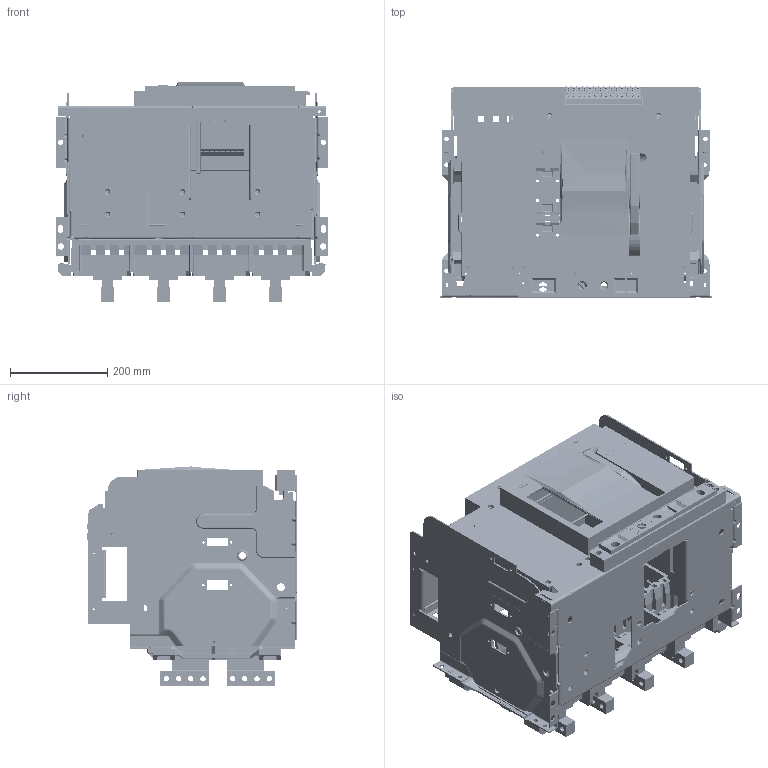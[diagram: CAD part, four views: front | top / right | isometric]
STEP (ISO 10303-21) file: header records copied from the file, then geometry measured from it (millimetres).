
FILE_DESCRIPTION((''),'2;1');
FILE_NAME('NA8G-3200-DO-3200-4P-V_ASM','2020-05-13T08:39:20',('lcc'),(''),'CREO PARAMETRIC BY PTC INC, 2018020','CREO PARAMETRIC BY PTC INC, 2018020','');
FILE_SCHEMA(('CONFIG_CONTROL_DESIGN','SHAPE_APPEARANCE_LAYERS_GROUPS'));
Products named in the file (31): 8-055-093; 8-050-238; 8-050-239; 8-300-151-; SHIZ45FFX1IW; DW45-3200-DIJIA-4P_ASM; 8ZTD-300-043; 8ZTD-227-004; 8ZTD-860-049-2; 8ZTD-235-048; 8-060-145-4; 8-253-034; 8-253-289; 8-253-290; 8-253-309; 8-060-140; 8ZTD-064-136; 8ZTD-024-689; 8ZTD-557-554; 8ZTD-557-552; 8ZTD-557-553; 8ZTD-557-555; GBT6170-M3; GBT818-M3X8; 5ZTD-558-366_ASM; 8ZTD-860-511; 5ZTD-558-365_ASM; 8ZTD-300-253; 8ZTD-580-221-1; 8ZTD-580-285; NA8G-3200-DO-3200-4P-V_ASM
Assembly tree (63 placements, depth 4):
  NA8G-3200-DO-3200-4P-V_ASM
    8-055-093
    8-050-238
    8-050-239
    8-300-151-
    DW45-3200-DIJIA-4P_ASM
      SHIZ45FFX1IW
    8ZTD-300-043
    8ZTD-227-004
    8ZTD-860-049-2
    8ZTD-235-048
    8-060-145-4
    8-253-034
    8-253-289
    8-253-290
    8-253-309
    8-060-140
    5ZTD-558-365_ASM
      8ZTD-064-136
      5ZTD-558-366_ASM  x14
        8ZTD-024-689
        8ZTD-557-554
        8ZTD-557-552
        8ZTD-557-553
        8ZTD-557-555
        GBT6170-M3
        GBT818-M3X8
      8ZTD-860-511
    8ZTD-300-253
    8ZTD-580-221-1  x8
    8ZTD-580-285  x8
Bounding box: 558 x 432.97 x 450 mm (x, y, z)
Volume: 8564211.9 mm3; surface area: 3987087 mm2
Topology: 215 solids, 340 shells, 14487 faces, 39121 edges, 24962 vertices
Faces by surface type: plane 8729, cylinder 3743, cone 1076, bspline 355, sphere 331, torus 253
Entity records: 283436 total; most frequent: CARTESIAN_POINT 53100, ORIENTED_EDGE 38646, DIRECTION 36388, EDGE_CURVE 19366, PRESENTATION_STYLE_ASSIGNMENT 15331, STYLED_ITEM 15327, CURVE_STYLE 14714, VECTOR 14580
